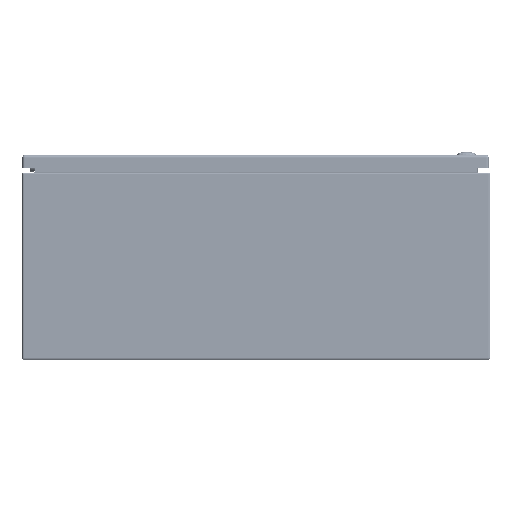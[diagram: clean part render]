
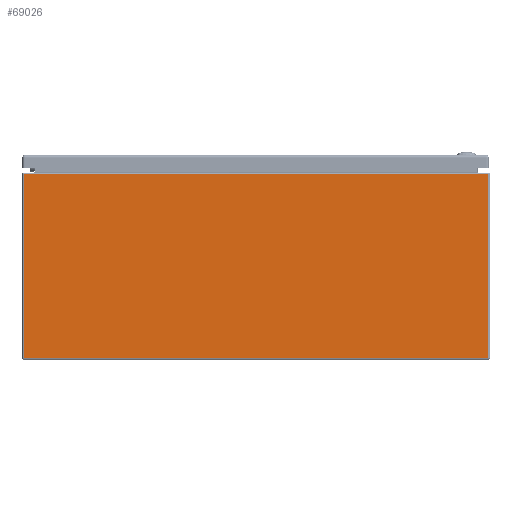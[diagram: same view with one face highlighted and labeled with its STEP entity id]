
A CAD part, front view. The second image highlights one B-rep face of the part: STEP entity #69026.
In plain terms, the highlighted planar face has unit normal (0, -1, 0).
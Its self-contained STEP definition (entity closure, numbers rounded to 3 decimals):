
#6241=LINE('',#98358,#10661);
#6242=LINE('',#98368,#10662);
#6243=LINE('',#98372,#10663);
#6244=LINE('',#98373,#10664);
#10661=VECTOR('',#80883,0.394);
#10662=VECTOR('',#80898,0.394);
#10663=VECTOR('',#80903,0.394);
#10664=VECTOR('',#80904,0.394);
#16076=FACE_OUTER_BOUND('',#20342,.T.);
#20342=EDGE_LOOP('',(#46001,#46002,#46003,#46004));
#27910=VERTEX_POINT('',#98351);
#27913=VERTEX_POINT('',#98356);
#27915=VERTEX_POINT('',#98367);
#27916=VERTEX_POINT('',#98371);
#34905=EDGE_CURVE('',#27913,#27910,#6241,.T.);
#34910=EDGE_CURVE('',#27915,#27910,#6242,.T.);
#34912=EDGE_CURVE('',#27916,#27913,#6243,.T.);
#34913=EDGE_CURVE('',#27915,#27916,#6244,.T.);
#46001=ORIENTED_EDGE('',*,*,#34905,.F.);
#46002=ORIENTED_EDGE('',*,*,#34912,.F.);
#46003=ORIENTED_EDGE('',*,*,#34913,.F.);
#46004=ORIENTED_EDGE('',*,*,#34910,.T.);
#67448=PLANE('',#74208);
#69026=ADVANCED_FACE('',(#16076),#67448,.F.);
#74208=AXIS2_PLACEMENT_3D('',#98370,#80901,#80902);
#80883=DIRECTION('',(0.,0.,1.));
#80898=DIRECTION('',(-1.,0.,0.));
#80901=DIRECTION('center_axis',(0.,1.,0.));
#80902=DIRECTION('ref_axis',(1.,0.,0.));
#80903=DIRECTION('',(-1.,0.,0.));
#80904=DIRECTION('',(0.,0.,-1.));
#98351=CARTESIAN_POINT('',(-14.901,-15.,11.901));
#98356=CARTESIAN_POINT('',(-14.901,-15.,0.099));
#98358=CARTESIAN_POINT('',(-14.901,-15.,6.009));
#98367=CARTESIAN_POINT('',(14.901,-15.,11.901));
#98368=CARTESIAN_POINT('',(-7.455,-15.,11.901));
#98370=CARTESIAN_POINT('Origin',(0.,-15.,6.009));
#98371=CARTESIAN_POINT('',(14.901,-15.,0.099));
#98372=CARTESIAN_POINT('',(15.,-15.,0.099));
#98373=CARTESIAN_POINT('',(14.901,-15.,6.009));
